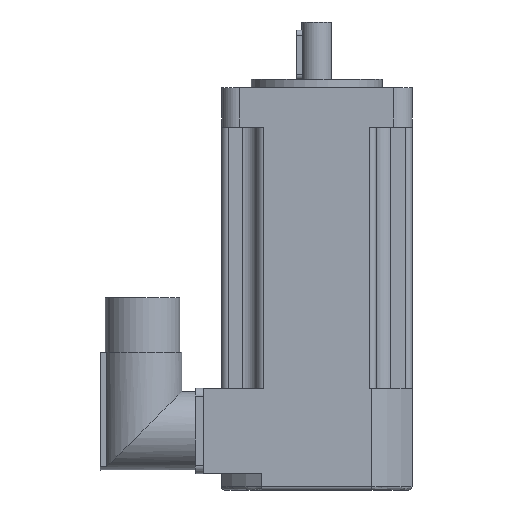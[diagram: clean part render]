
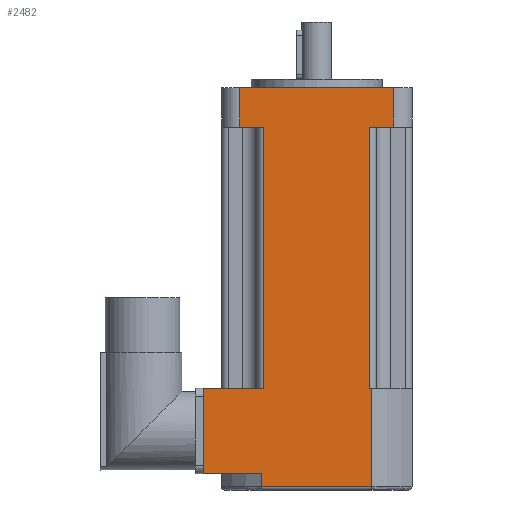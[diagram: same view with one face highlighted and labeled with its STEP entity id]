
A CAD part, left-side view. The second image highlights one B-rep face of the part: STEP entity #2482.
In plain terms, the highlighted planar face has unit normal (-1, 0, 0).
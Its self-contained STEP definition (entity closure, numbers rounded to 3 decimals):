
#99=LINE('',#3835,#320);
#122=LINE('',#3903,#343);
#138=LINE('',#3952,#359);
#139=LINE('',#3955,#360);
#142=LINE('',#3961,#363);
#165=LINE('',#4021,#386);
#166=LINE('',#4026,#387);
#188=LINE('',#4075,#409);
#191=LINE('',#4084,#412);
#199=LINE('',#4220,#420);
#201=LINE('',#4242,#422);
#203=LINE('',#4247,#424);
#204=LINE('',#4249,#425);
#205=LINE('',#4250,#426);
#320=VECTOR('',#3044,7.425);
#343=VECTOR('',#3107,7.425);
#359=VECTOR('',#3163,12.);
#360=VECTOR('',#3166,12.);
#363=VECTOR('',#3173,47.);
#386=VECTOR('',#3238,79.5);
#387=VECTOR('',#3243,79.5);
#409=VECTOR('',#3287,18.425);
#412=VECTOR('',#3296,0.696);
#420=VECTOR('',#3332,33.541);
#422=VECTOR('',#3342,4.);
#424=VECTOR('',#3348,30.);
#425=VECTOR('',#3349,26.);
#426=VECTOR('',#3350,17.729);
#525=PLANE('',#2718);
#733=FACE_OUTER_BOUND('',#889,.T.);
#889=EDGE_LOOP('',(#2153,#2154,#2155,#2156,#2157,#2158,#2159,#2160,#2161,
#2162,#2163,#2164,#2165,#2166));
#1149=VERTEX_POINT('',#3832);
#1150=VERTEX_POINT('',#3834);
#1174=VERTEX_POINT('',#3900);
#1175=VERTEX_POINT('',#3902);
#1188=VERTEX_POINT('',#3950);
#1189=VERTEX_POINT('',#3954);
#1206=VERTEX_POINT('',#4019);
#1207=VERTEX_POINT('',#4023);
#1224=VERTEX_POINT('',#4073);
#1227=VERTEX_POINT('',#4083);
#1241=VERTEX_POINT('',#4200);
#1243=VERTEX_POINT('',#4219);
#1245=VERTEX_POINT('',#4241);
#1247=VERTEX_POINT('',#4248);
#1418=EDGE_CURVE('',#1150,#1149,#99,.T.);
#1452=EDGE_CURVE('',#1175,#1174,#122,.T.);
#1477=EDGE_CURVE('',#1149,#1188,#138,.T.);
#1478=EDGE_CURVE('',#1175,#1189,#139,.T.);
#1482=EDGE_CURVE('',#1189,#1188,#142,.T.);
#1513=EDGE_CURVE('',#1206,#1150,#165,.T.);
#1515=EDGE_CURVE('',#1207,#1174,#166,.T.);
#1540=EDGE_CURVE('',#1224,#1207,#188,.T.);
#1544=EDGE_CURVE('',#1206,#1227,#191,.T.);
#1566=EDGE_CURVE('',#1243,#1241,#199,.T.);
#1571=EDGE_CURVE('',#1245,#1241,#201,.T.);
#1574=EDGE_CURVE('',#1243,#1227,#203,.T.);
#1575=EDGE_CURVE('',#1224,#1247,#204,.T.);
#1576=EDGE_CURVE('',#1245,#1247,#205,.T.);
#2153=ORIENTED_EDGE('',*,*,#1566,.F.);
#2154=ORIENTED_EDGE('',*,*,#1574,.T.);
#2155=ORIENTED_EDGE('',*,*,#1544,.F.);
#2156=ORIENTED_EDGE('',*,*,#1513,.T.);
#2157=ORIENTED_EDGE('',*,*,#1418,.T.);
#2158=ORIENTED_EDGE('',*,*,#1477,.T.);
#2159=ORIENTED_EDGE('',*,*,#1482,.F.);
#2160=ORIENTED_EDGE('',*,*,#1478,.F.);
#2161=ORIENTED_EDGE('',*,*,#1452,.T.);
#2162=ORIENTED_EDGE('',*,*,#1515,.F.);
#2163=ORIENTED_EDGE('',*,*,#1540,.F.);
#2164=ORIENTED_EDGE('',*,*,#1575,.T.);
#2165=ORIENTED_EDGE('',*,*,#1576,.F.);
#2166=ORIENTED_EDGE('',*,*,#1571,.T.);
#2482=ADVANCED_FACE('',(#733),#525,.T.);
#2718=AXIS2_PLACEMENT_3D('',#4246,#3346,#3347);
#3044=DIRECTION('',(0.,-1.,0.));
#3107=DIRECTION('',(0.,-1.,0.));
#3163=DIRECTION('',(0.,0.,1.));
#3166=DIRECTION('',(0.,0.,1.));
#3173=DIRECTION('',(0.,-1.,0.));
#3238=DIRECTION('',(0.,0.,1.));
#3243=DIRECTION('',(0.,0.,1.));
#3287=DIRECTION('',(0.,-1.,0.));
#3296=DIRECTION('',(0.,-1.,0.));
#3332=DIRECTION('',(0.,1.,0.));
#3342=DIRECTION('',(0.,0.,-1.));
#3346=DIRECTION('center_axis',(-1.,0.,0.));
#3347=DIRECTION('ref_axis',(0.,-1.,0.));
#3348=DIRECTION('',(0.,0.,1.));
#3349=DIRECTION('',(0.,0.,-1.));
#3350=DIRECTION('',(0.,1.,0.));
#3832=CARTESIAN_POINT('',(-29.,-23.5,92.5));
#3834=CARTESIAN_POINT('',(-29.,-16.075,92.5));
#3835=CARTESIAN_POINT('',(-29.,23.5,92.5));
#3900=CARTESIAN_POINT('',(-29.,16.075,92.5));
#3902=CARTESIAN_POINT('',(-29.,23.5,92.5));
#3903=CARTESIAN_POINT('',(-29.,23.5,92.5));
#3950=CARTESIAN_POINT('',(-29.,-23.5,104.5));
#3952=CARTESIAN_POINT('',(-29.,-23.5,92.5));
#3954=CARTESIAN_POINT('',(-29.,23.5,104.5));
#3955=CARTESIAN_POINT('',(-29.,23.5,92.5));
#3961=CARTESIAN_POINT('',(-29.,23.5,104.5));
#4019=CARTESIAN_POINT('',(-29.,-16.075,13.));
#4021=CARTESIAN_POINT('',(-29.,-16.075,13.));
#4023=CARTESIAN_POINT('',(-29.,16.075,13.));
#4026=CARTESIAN_POINT('',(-29.,16.075,13.));
#4073=CARTESIAN_POINT('',(-29.,34.5,13.));
#4075=CARTESIAN_POINT('',(-29.,34.5,13.));
#4083=CARTESIAN_POINT('',(-29.,-16.771,13.));
#4084=CARTESIAN_POINT('',(-29.,34.5,13.));
#4200=CARTESIAN_POINT('',(-29.,16.771,-17.));
#4219=CARTESIAN_POINT('',(-29.,-16.771,-17.));
#4220=CARTESIAN_POINT('',(-29.,17.25,-17.));
#4241=CARTESIAN_POINT('',(-29.,16.771,-13.));
#4242=CARTESIAN_POINT('',(-29.,16.771,-13.));
#4246=CARTESIAN_POINT('Origin',(-29.,34.5,0.));
#4247=CARTESIAN_POINT('',(-29.,-16.771,0.));
#4248=CARTESIAN_POINT('',(-29.,34.5,-13.));
#4249=CARTESIAN_POINT('',(-29.,34.5,0.));
#4250=CARTESIAN_POINT('',(-29.,34.5,-13.));
